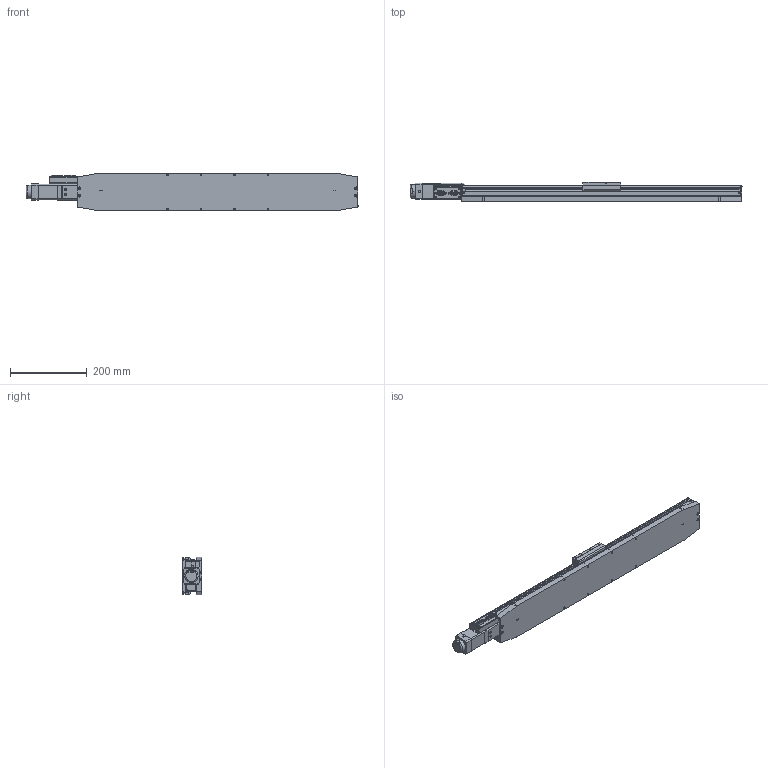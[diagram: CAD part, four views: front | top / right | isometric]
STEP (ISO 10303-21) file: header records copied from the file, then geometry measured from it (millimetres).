
FILE_DESCRIPTION (( 'STEP AP214' ), '1' );
FILE_NAME ('L3500.600-STC_v2_20180822.STEP', '2018-08-22T11:30:07', ( '' ), ( '' ), 'SwSTEP 2.0', 'SolidWorks 2017', '' );
FILE_SCHEMA (( 'AUTOMOTIVE_DESIGN' ));
Length unit declared in the file: millimetre
Products named in the file (1): L3500.600-STC_v2_20180822
Bounding box: 868.04 x 51.67 x 99.06 mm (x, y, z)
Volume: 1851488 mm3; surface area: 589279.7 mm2
Topology: 56 solids, 57 shells, 3169 faces, 7999 edges, 5073 vertices
Faces by surface type: plane 1454, cylinder 1330, cone 284, bspline 71, torus 30
Entity records: 98191 total; most frequent: CARTESIAN_POINT 20059, DIRECTION 16584, ORIENTED_EDGE 15582, EDGE_CURVE 7791, AXIS2_PLACEMENT_3D 5923, VERTEX_POINT 5073, LINE 4738, VECTOR 4738
